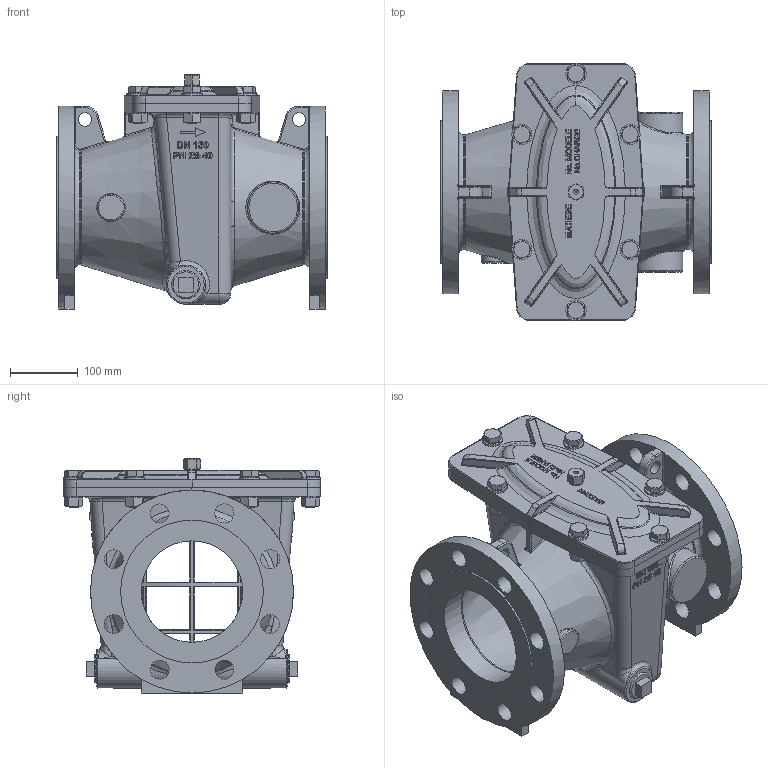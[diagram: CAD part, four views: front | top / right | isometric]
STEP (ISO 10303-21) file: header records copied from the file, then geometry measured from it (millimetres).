
FILE_DESCRIPTION(/* description */ ('57967-F02'),/* implementation_level */ '2;1');
FILE_NAME(/* name */ 'G:\Doc_Liberes\SymbolesCAD\Silhouettes3D\FichierSTP\Aqua\Aqua90501\FAB150_40.stp',/* time_stamp */ '2014-06-05T11:49:56+02:00',/* author */ ('sylvain'),/* organization */ ('SO'),/* preprocessor_version */ 'ST-DEVELOPER v15.2',/* originating_system */ 'Autodesk Inventor 2014',/* authorisation */ 'RESPON');
FILE_SCHEMA (('AUTOMOTIVE_DESIGN { 1 0 10303 214 3 1 1 }'));
Products named in the file (10): couv150; corps15040std; 57966; 57576-07; 57576-02; M16-45; 16; M16; bouchon114; FAB15040
Bounding box: 400 x 380 x 346 mm (x, y, z)
Volume: 7615276.4 mm3; surface area: 1326983.5 mm2
Topology: 24 solids, 24 shells, 1886 faces, 4865 edges, 3069 vertices
Faces by surface type: plane 922, bspline 397, cylinder 334, torus 141, cone 88, sphere 4
Full cylindrical faces by diameter (mm): 1.6 x1, 2.3 x1, 6.92 x1, 13.835 x6, 14 x1, 16 x6, 17 x6, 18 x12, 20 x2, 20.38 x1, 20.955 x1, 22.49 x6, 28 x16, 30 x6, 39.84 x2, 42 x2, 76 x2, 150 x2, 211 x2, 300 x2
Entity records: 61502 total; most frequent: CARTESIAN_POINT 22252, ORIENTED_EDGE 8636, DIRECTION 6959, EDGE_CURVE 4318, VERTEX_POINT 2781, LINE 2417, VECTOR 2417, AXIS2_PLACEMENT_3D 2271
